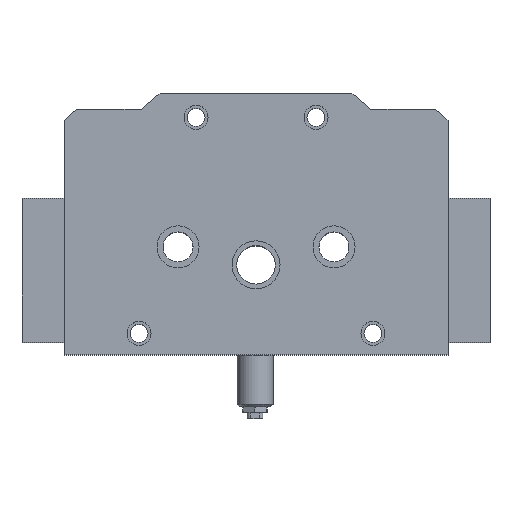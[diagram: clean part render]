
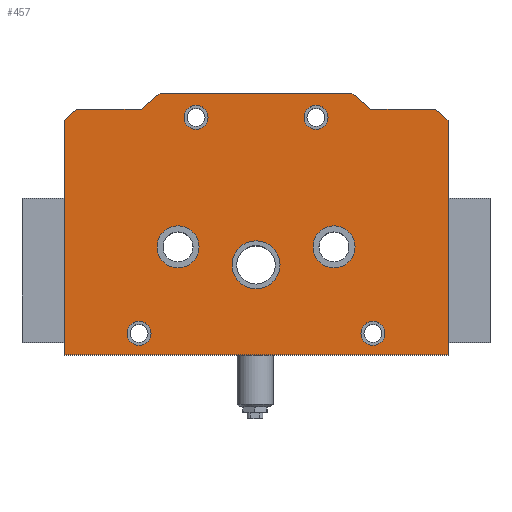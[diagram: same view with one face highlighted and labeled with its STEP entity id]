
A CAD part, top view. The second image highlights one B-rep face of the part: STEP entity #457.
In plain terms, the highlighted planar face has unit normal (0, 0, 1).
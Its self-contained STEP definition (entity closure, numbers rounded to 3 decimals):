
#457=ADVANCED_FACE('',(#919,#920,#921,#922,#923,#924,#925,#926),#736,.T.);
#736=PLANE('',#4562);
#919=FACE_BOUND('',#1203,.T.);
#920=FACE_BOUND('',#1204,.T.);
#921=FACE_BOUND('',#1205,.T.);
#922=FACE_BOUND('',#1206,.T.);
#923=FACE_BOUND('',#1207,.T.);
#924=FACE_BOUND('',#1208,.T.);
#925=FACE_BOUND('',#1209,.T.);
#926=FACE_BOUND('',#1210,.T.);
#1203=EDGE_LOOP('',(#1864));
#1204=EDGE_LOOP('',(#1865));
#1205=EDGE_LOOP('',(#1866));
#1206=EDGE_LOOP('',(#1867,#1868,#1869,#1870,#1871,#1872,#1873,#1874,#1875,
#1876));
#1207=EDGE_LOOP('',(#1877));
#1208=EDGE_LOOP('',(#1878));
#1209=EDGE_LOOP('',(#1879));
#1210=EDGE_LOOP('',(#1880));
#1645=CIRCLE('',#4555,17.5);
#1646=CIRCLE('',#4556,10.);
#1647=CIRCLE('',#4557,10.);
#1648=CIRCLE('',#4558,10.);
#1649=CIRCLE('',#4559,10.);
#1650=CIRCLE('',#4560,20.);
#1651=CIRCLE('',#4561,17.5);
#1864=ORIENTED_EDGE('',*,*,#3373,.T.);
#1865=ORIENTED_EDGE('',*,*,#3374,.T.);
#1866=ORIENTED_EDGE('',*,*,#3375,.T.);
#1867=ORIENTED_EDGE('',*,*,#3361,.T.);
#1868=ORIENTED_EDGE('',*,*,#3376,.T.);
#1869=ORIENTED_EDGE('',*,*,#3337,.T.);
#1870=ORIENTED_EDGE('',*,*,#3377,.T.);
#1871=ORIENTED_EDGE('',*,*,#3378,.T.);
#1872=ORIENTED_EDGE('',*,*,#3379,.T.);
#1873=ORIENTED_EDGE('',*,*,#3380,.T.);
#1874=ORIENTED_EDGE('',*,*,#3381,.T.);
#1875=ORIENTED_EDGE('',*,*,#3382,.T.);
#1876=ORIENTED_EDGE('',*,*,#3383,.T.);
#1877=ORIENTED_EDGE('',*,*,#3384,.F.);
#1878=ORIENTED_EDGE('',*,*,#3385,.F.);
#1879=ORIENTED_EDGE('',*,*,#3386,.F.);
#1880=ORIENTED_EDGE('',*,*,#3387,.F.);
#2922=VERTEX_POINT('',#6306);
#2923=VERTEX_POINT('',#6308);
#2946=VERTEX_POINT('',#6355);
#2947=VERTEX_POINT('',#6357);
#2958=VERTEX_POINT('',#6381);
#2959=VERTEX_POINT('',#6383);
#2960=VERTEX_POINT('',#6385);
#2961=VERTEX_POINT('',#6388);
#2962=VERTEX_POINT('',#6390);
#2963=VERTEX_POINT('',#6392);
#2964=VERTEX_POINT('',#6394);
#2965=VERTEX_POINT('',#6396);
#2966=VERTEX_POINT('',#6398);
#2967=VERTEX_POINT('',#6401);
#2968=VERTEX_POINT('',#6403);
#2969=VERTEX_POINT('',#6405);
#2970=VERTEX_POINT('',#6407);
#3337=EDGE_CURVE('',#2923,#2922,#3878,.T.);
#3361=EDGE_CURVE('',#2947,#2946,#3890,.T.);
#3373=EDGE_CURVE('',#2958,#2958,#1645,.T.);
#3374=EDGE_CURVE('',#2959,#2959,#1646,.T.);
#3375=EDGE_CURVE('',#2960,#2960,#1647,.T.);
#3376=EDGE_CURVE('',#2946,#2923,#3896,.T.);
#3377=EDGE_CURVE('',#2922,#2961,#3897,.T.);
#3378=EDGE_CURVE('',#2961,#2962,#3898,.T.);
#3379=EDGE_CURVE('',#2962,#2963,#3899,.T.);
#3380=EDGE_CURVE('',#2963,#2964,#3900,.T.);
#3381=EDGE_CURVE('',#2964,#2965,#3901,.T.);
#3382=EDGE_CURVE('',#2965,#2966,#3902,.T.);
#3383=EDGE_CURVE('',#2966,#2947,#3903,.T.);
#3384=EDGE_CURVE('',#2967,#2967,#1648,.T.);
#3385=EDGE_CURVE('',#2968,#2968,#1649,.T.);
#3386=EDGE_CURVE('',#2969,#2969,#1650,.T.);
#3387=EDGE_CURVE('',#2970,#2970,#1651,.T.);
#3878=LINE('',#6307,#4206);
#3890=LINE('',#6356,#4218);
#3896=LINE('',#6386,#4224);
#3897=LINE('',#6387,#4225);
#3898=LINE('',#6389,#4226);
#3899=LINE('',#6391,#4227);
#3900=LINE('',#6393,#4228);
#3901=LINE('',#6395,#4229);
#3902=LINE('',#6397,#4230);
#3903=LINE('',#6399,#4231);
#4206=VECTOR('',#5023,1.);
#4218=VECTOR('',#5061,1.);
#4224=VECTOR('',#5087,1.);
#4225=VECTOR('',#5088,1.);
#4226=VECTOR('',#5089,1.);
#4227=VECTOR('',#5090,1.);
#4228=VECTOR('',#5091,1.);
#4229=VECTOR('',#5092,1.);
#4230=VECTOR('',#5093,1.);
#4231=VECTOR('',#5094,1.);
#4555=AXIS2_PLACEMENT_3D('',#6380,#5081,#5082);
#4556=AXIS2_PLACEMENT_3D('',#6382,#5083,#5084);
#4557=AXIS2_PLACEMENT_3D('',#6384,#5085,#5086);
#4558=AXIS2_PLACEMENT_3D('',#6400,#5095,#5096);
#4559=AXIS2_PLACEMENT_3D('',#6402,#5097,#5098);
#4560=AXIS2_PLACEMENT_3D('',#6404,#5099,#5100);
#4561=AXIS2_PLACEMENT_3D('',#6406,#5101,#5102);
#4562=AXIS2_PLACEMENT_3D('',#6408,#5103,#5104);
#5023=DIRECTION('',(0.,1.,0.));
#5061=DIRECTION('',(0.,-1.,0.));
#5081=DIRECTION('',(0.,0.,-1.));
#5082=DIRECTION('',(-1.,0.,0.));
#5083=DIRECTION('',(0.,0.,-1.));
#5084=DIRECTION('',(-1.,0.,0.));
#5085=DIRECTION('',(0.,0.,-1.));
#5086=DIRECTION('',(-1.,0.,0.));
#5087=DIRECTION('',(1.,0.,0.));
#5088=DIRECTION('',(-0.74,0.673,0.));
#5089=DIRECTION('',(-1.,0.,0.));
#5090=DIRECTION('',(-0.765,0.644,0.));
#5091=DIRECTION('',(-1.,0.,0.));
#5092=DIRECTION('',(-0.765,-0.644,0.));
#5093=DIRECTION('',(-1.,0.,0.));
#5094=DIRECTION('',(-0.74,-0.673,0.));
#5095=DIRECTION('',(0.,0.,1.));
#5096=DIRECTION('',(1.,0.,0.));
#5097=DIRECTION('',(0.,0.,1.));
#5098=DIRECTION('',(1.,0.,0.));
#5099=DIRECTION('',(0.,0.,1.));
#5100=DIRECTION('',(1.,0.,0.));
#5101=DIRECTION('',(0.,0.,1.));
#5102=DIRECTION('',(1.,0.,0.));
#5103=DIRECTION('',(0.,0.,1.));
#5104=DIRECTION('',(1.,0.,0.));
#6306=CARTESIAN_POINT('',(160.,86.389,200.));
#6307=CARTESIAN_POINT('',(160.,-109.,200.));
#6308=CARTESIAN_POINT('',(160.,-109.,200.));
#6355=CARTESIAN_POINT('',(-160.,-109.,200.));
#6356=CARTESIAN_POINT('',(-160.,86.389,200.));
#6357=CARTESIAN_POINT('',(-160.,86.389,200.));
#6380=CARTESIAN_POINT('',(65.,-19.,200.));
#6381=CARTESIAN_POINT('',(47.5,-19.,200.));
#6382=CARTESIAN_POINT('',(97.5,-91.,200.));
#6383=CARTESIAN_POINT('',(87.5,-91.,200.));
#6384=CARTESIAN_POINT('',(50.,89.,200.));
#6385=CARTESIAN_POINT('',(40.,89.,200.));
#6386=CARTESIAN_POINT('',(-160.,-109.,200.));
#6387=CARTESIAN_POINT('',(160.,86.389,200.));
#6388=CARTESIAN_POINT('',(149.651,95.8,200.));
#6389=CARTESIAN_POINT('',(149.651,95.8,200.));
#6390=CARTESIAN_POINT('',(95.664,95.8,200.));
#6391=CARTESIAN_POINT('',(95.664,95.8,200.));
#6392=CARTESIAN_POINT('',(80.,109.,200.));
#6393=CARTESIAN_POINT('',(80.,109.,200.));
#6394=CARTESIAN_POINT('',(-80.,109.,200.));
#6395=CARTESIAN_POINT('',(-80.,109.,200.));
#6396=CARTESIAN_POINT('',(-95.664,95.8,200.));
#6397=CARTESIAN_POINT('',(-95.664,95.8,200.));
#6398=CARTESIAN_POINT('',(-149.651,95.8,200.));
#6399=CARTESIAN_POINT('',(-149.651,95.8,200.));
#6400=CARTESIAN_POINT('',(-50.,89.,200.));
#6401=CARTESIAN_POINT('',(-40.,89.,200.));
#6402=CARTESIAN_POINT('',(-97.5,-91.,200.));
#6403=CARTESIAN_POINT('',(-87.5,-91.,200.));
#6404=CARTESIAN_POINT('',(0.,-34.,200.));
#6405=CARTESIAN_POINT('',(20.,-34.,200.));
#6406=CARTESIAN_POINT('',(-65.,-19.,200.));
#6407=CARTESIAN_POINT('',(-47.5,-19.,200.));
#6408=CARTESIAN_POINT('',(0.,0.,200.));
